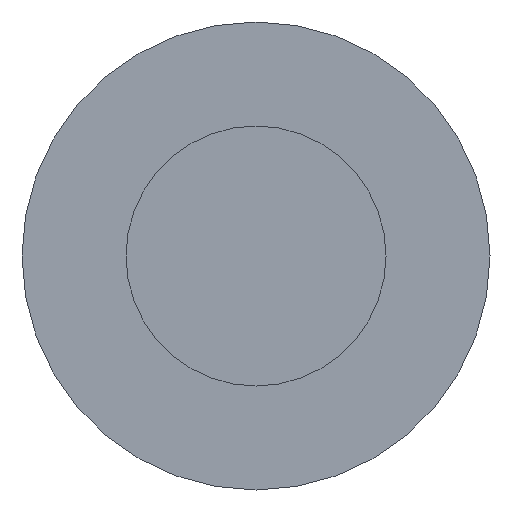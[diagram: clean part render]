
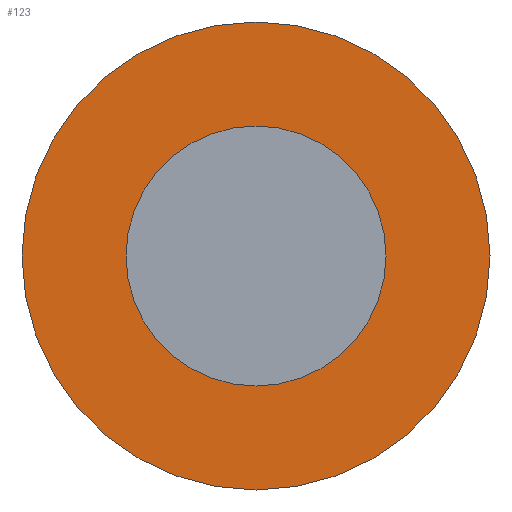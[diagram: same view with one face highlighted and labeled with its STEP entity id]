
A CAD part, front view. The second image highlights one B-rep face of the part: STEP entity #123.
In plain terms, the highlighted planar face has unit normal (0, -1, 0).
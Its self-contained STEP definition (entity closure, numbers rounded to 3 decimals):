
#2 = EDGE_CURVE ( 'NONE', #78, #205, #392, .T. ) ;
#6 = DIRECTION ( 'NONE',  ( 0., 1., 0. ) ) ;
#11 = ORIENTED_EDGE ( 'NONE', *, *, #89, .T. ) ;
#20 = CARTESIAN_POINT ( 'NONE',  ( 0., 12., 0. ) ) ;
#27 = CARTESIAN_POINT ( 'NONE',  ( 0., 12., -2.7 ) ) ;
#30 = CIRCLE ( 'NONE', #98, 1.5 ) ;
#35 = FACE_OUTER_BOUND ( 'NONE', #137, .T. ) ;
#40 = CARTESIAN_POINT ( 'NONE',  ( 0., 12., 0. ) ) ;
#47 = FACE_BOUND ( 'NONE', #264, .T. ) ;
#74 = CIRCLE ( 'NONE', #105, 2.7 ) ;
#78 = VERTEX_POINT ( 'NONE', #393 ) ;
#84 = CARTESIAN_POINT ( 'NONE',  ( 0., 12., 2.7 ) ) ;
#89 = EDGE_CURVE ( 'NONE', #205, #78, #30, .T. ) ;
#98 = AXIS2_PLACEMENT_3D ( 'NONE', #40, #146, #330 ) ;
#105 = AXIS2_PLACEMENT_3D ( 'NONE', #314, #160, #193 ) ;
#123 = ADVANCED_FACE ( 'NONE', ( #47, #35 ), #204, .F. ) ;
#125 = ORIENTED_EDGE ( 'NONE', *, *, #397, .F. ) ;
#136 = DIRECTION ( 'NONE',  ( 0., 1., 0. ) ) ;
#137 = EDGE_LOOP ( 'NONE', ( #125, #337 ) ) ;
#146 = DIRECTION ( 'NONE',  ( 0., 1., 0. ) ) ;
#148 = AXIS2_PLACEMENT_3D ( 'NONE', #319, #136, #312 ) ;
#157 = DIRECTION ( 'NONE',  ( 0., 1., 0. ) ) ;
#160 = DIRECTION ( 'NONE',  ( 0., 1., 0. ) ) ;
#193 = DIRECTION ( 'NONE',  ( 0., 0., 1. ) ) ;
#203 = VERTEX_POINT ( 'NONE', #84 ) ;
#204 = PLANE ( 'NONE',  #216 ) ;
#205 = VERTEX_POINT ( 'NONE', #340 ) ;
#207 = DIRECTION ( 'NONE',  ( 0., 0., 1. ) ) ;
#216 = AXIS2_PLACEMENT_3D ( 'NONE', #332, #6, #322 ) ;
#228 = ORIENTED_EDGE ( 'NONE', *, *, #2, .T. ) ;
#264 = EDGE_LOOP ( 'NONE', ( #11, #228 ) ) ;
#296 = EDGE_CURVE ( 'NONE', #203, #299, #74, .T. ) ;
#299 = VERTEX_POINT ( 'NONE', #27 ) ;
#312 = DIRECTION ( 'NONE',  ( 0., 0., 1. ) ) ;
#314 = CARTESIAN_POINT ( 'NONE',  ( 0., 12., 0. ) ) ;
#319 = CARTESIAN_POINT ( 'NONE',  ( 0., 12., 0. ) ) ;
#321 = AXIS2_PLACEMENT_3D ( 'NONE', #20, #157, #207 ) ;
#322 = DIRECTION ( 'NONE',  ( 0., 0., 1. ) ) ;
#330 = DIRECTION ( 'NONE',  ( 0., 0., 1. ) ) ;
#332 = CARTESIAN_POINT ( 'NONE',  ( 0., 12., 0. ) ) ;
#337 = ORIENTED_EDGE ( 'NONE', *, *, #296, .F. ) ;
#340 = CARTESIAN_POINT ( 'NONE',  ( 0., 12., -1.5 ) ) ;
#392 = CIRCLE ( 'NONE', #321, 1.5 ) ;
#393 = CARTESIAN_POINT ( 'NONE',  ( 0., 12., 1.5 ) ) ;
#397 = EDGE_CURVE ( 'NONE', #299, #203, #409, .T. ) ;
#409 = CIRCLE ( 'NONE', #148, 2.7 ) ;
